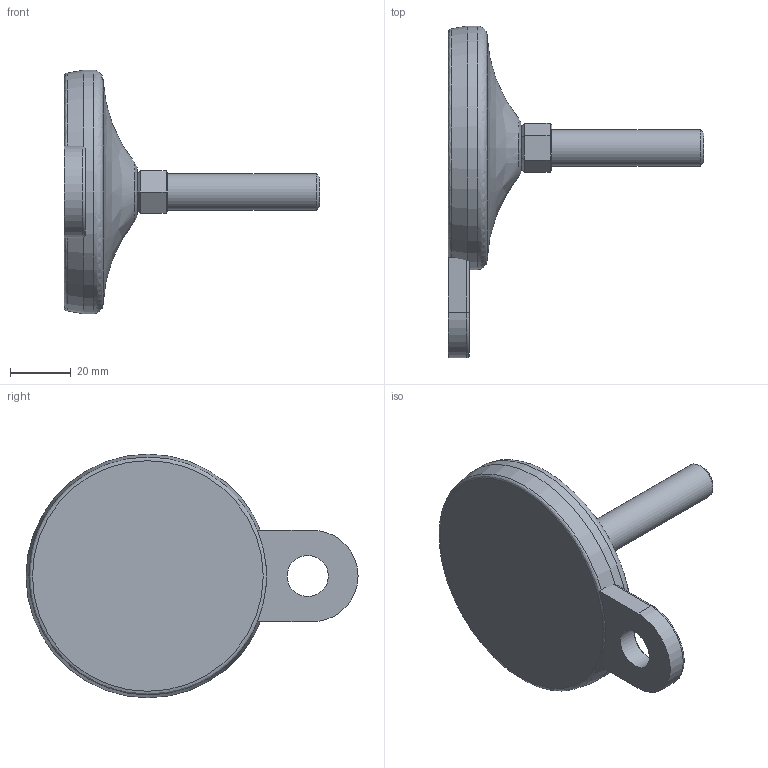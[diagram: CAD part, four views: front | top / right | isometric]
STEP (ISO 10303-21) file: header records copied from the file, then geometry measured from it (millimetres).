
FILE_DESCRIPTION(('STEP AP203'),'2;1');
FILE_NAME('26010-F.stp','2016-09-09T14:55:34',(''),(''),'2008.1.107','THINKDESIGN','');
FILE_SCHEMA(('CONFIG_CONTROL_DESIGN'));
Length unit declared in the file: millimetre
Bounding box: 84 x 109 x 80 mm (x, y, z)
Volume: 88243.2 mm3; surface area: 18120.9 mm2
Topology: 4 solids, 4 shells, 43 faces, 97 edges, 62 vertices
Faces by surface type: bspline 20, plane 16, cylinder 7
Full cylindrical faces by diameter (mm): 12 x1, 13.5 x1, 80 x1
Entity records: 1893 total; most frequent: CARTESIAN_POINT 869, ORIENTED_EDGE 194, DIRECTION 178, EDGE_CURVE 97, VERTEX_POINT 62, AXIS2_PLACEMENT_3D 60, VECTOR 58, LINE 58
